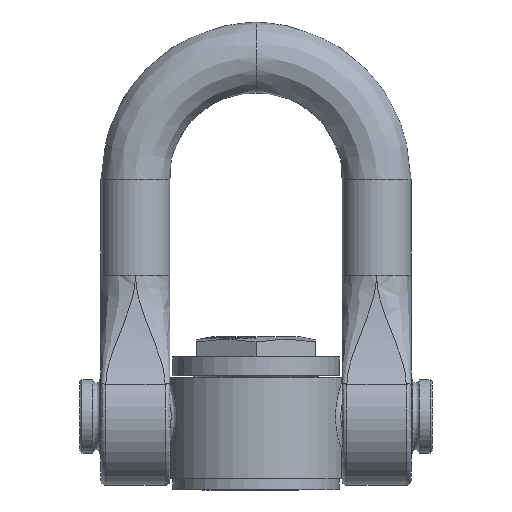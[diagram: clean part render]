
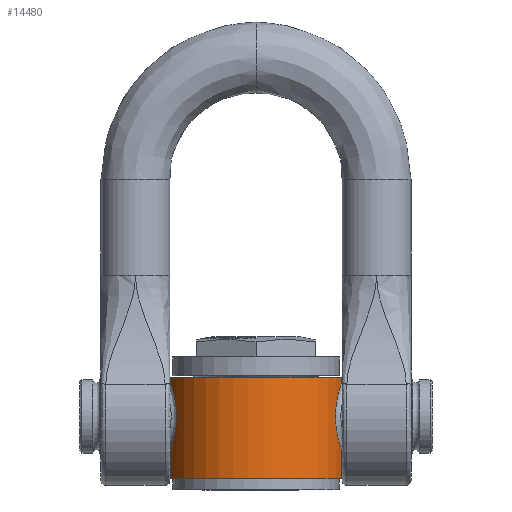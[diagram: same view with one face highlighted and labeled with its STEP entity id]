
A CAD part, left-side view. The second image highlights one B-rep face of the part: STEP entity #14480.
In plain terms, the highlighted cylindrical face has radius 37.5 mm (diameter 75 mm), a partial arc.
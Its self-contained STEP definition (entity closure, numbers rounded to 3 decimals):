
#960=LINE('',#26594,#1731);
#964=LINE('',#26960,#1735);
#966=LINE('',#26964,#1737);
#967=LINE('',#26966,#1738);
#1731=VECTOR('',#17507,10.);
#1735=VECTOR('',#17593,10.);
#1737=VECTOR('',#17599,10.);
#1738=VECTOR('',#17602,10.);
#2195=ELLIPSE('',#15468,17.07,15.009);
#2196=ELLIPSE('',#15469,17.07,15.009);
#2199=ELLIPSE('',#15472,17.07,15.009);
#2200=ELLIPSE('',#15473,17.07,15.009);
#2259=CYLINDRICAL_SURFACE('',#15493,37.5);
#2678=FACE_OUTER_BOUND('',#3549,.T.);
#3549=EDGE_LOOP('',(#11430,#11431,#11432,#11433,#11434,#11435,#11436,#11437,
#11438,#11439,#11440,#11441,#11442,#11443,#11444,#11445));
#4202=CIRCLE('',#15482,37.5);
#4206=CIRCLE('',#15488,37.5);
#5047=B_SPLINE_CURVE_WITH_KNOTS('',3,(#26421,#26422,#26423,#26424,#26425,
#26426,#26427,#26428),.UNSPECIFIED.,.F.,.F.,(4,2,2,4),(1.872,
1.928,1.992,1.994),.UNSPECIFIED.);
#5052=B_SPLINE_CURVE_WITH_KNOTS('',3,(#26488,#26489,#26490,#26491,#26492,
#26493,#26494,#26495),.UNSPECIFIED.,.F.,.F.,(4,2,2,4),(1.268,
1.288,1.331,1.348),.UNSPECIFIED.);
#5062=B_SPLINE_CURVE_WITH_KNOTS('',3,(#26583,#26584,#26585,#26586,#26587,
#26588),.UNSPECIFIED.,.F.,.F.,(4,2,4),(1.948,2.012,
2.057),.UNSPECIFIED.);
#5063=B_SPLINE_CURVE_WITH_KNOTS('',3,(#26598,#26599,#26600,#26601,#26602,
#26603,#26604,#26605),.UNSPECIFIED.,.F.,.F.,(4,2,2,4),(1.268,
1.288,1.331,1.348),.UNSPECIFIED.);
#5073=B_SPLINE_CURVE_WITH_KNOTS('',3,(#26751,#26752,#26753,#26754,#26755,
#26756,#26757,#26758,#26759),.UNSPECIFIED.,.F.,.F.,(4,1,1,1,1,1,4),(-13.112,
-12.433,-12.192,-11.709,-11.226,
-10.743,-9.823),.UNSPECIFIED.);
#5075=B_SPLINE_CURVE_WITH_KNOTS('',3,(#26867,#26868,#26869,#26870,#26871,
#26872,#26873,#26874,#26875),.UNSPECIFIED.,.F.,.F.,(4,1,1,1,1,1,4),(-13.112,
-12.433,-12.192,-11.709,-11.226,
-10.743,-9.823),.UNSPECIFIED.);
#6112=VERTEX_POINT('',#26364);
#6118=VERTEX_POINT('',#26419);
#6126=VERTEX_POINT('',#26474);
#6127=VERTEX_POINT('',#26487);
#6136=VERTEX_POINT('',#26546);
#6139=VERTEX_POINT('',#26581);
#6141=VERTEX_POINT('',#26592);
#6142=VERTEX_POINT('',#26596);
#6143=VERTEX_POINT('',#26597);
#6159=VERTEX_POINT('',#26748);
#6160=VERTEX_POINT('',#26750);
#6163=VERTEX_POINT('',#26864);
#6164=VERTEX_POINT('',#26866);
#6170=VERTEX_POINT('',#26944);
#6171=VERTEX_POINT('',#26946);
#6174=VERTEX_POINT('',#26956);
#7988=EDGE_CURVE('',#6118,#6112,#5047,.T.);
#7997=EDGE_CURVE('',#6127,#6126,#5052,.F.);
#8013=EDGE_CURVE('',#6139,#6136,#5062,.T.);
#8016=EDGE_CURVE('',#6139,#6141,#960,.T.);
#8017=EDGE_CURVE('',#6142,#6143,#5063,.F.);
#8036=EDGE_CURVE('',#6136,#6159,#2195,.F.);
#8037=EDGE_CURVE('',#6159,#6160,#5073,.T.);
#8038=EDGE_CURVE('',#6126,#6160,#2196,.T.);
#8042=EDGE_CURVE('',#6112,#6163,#2199,.F.);
#8043=EDGE_CURVE('',#6163,#6164,#5075,.T.);
#8044=EDGE_CURVE('',#6143,#6164,#2200,.T.);
#8052=EDGE_CURVE('',#6170,#6171,#4202,.T.);
#8058=EDGE_CURVE('',#6174,#6141,#4206,.T.);
#8059=EDGE_CURVE('',#6170,#6127,#964,.T.);
#8061=EDGE_CURVE('',#6174,#6142,#966,.T.);
#8062=EDGE_CURVE('',#6118,#6171,#967,.T.);
#11430=ORIENTED_EDGE('',*,*,#8037,.F.);
#11431=ORIENTED_EDGE('',*,*,#8036,.F.);
#11432=ORIENTED_EDGE('',*,*,#8013,.F.);
#11433=ORIENTED_EDGE('',*,*,#8016,.T.);
#11434=ORIENTED_EDGE('',*,*,#8058,.F.);
#11435=ORIENTED_EDGE('',*,*,#8061,.T.);
#11436=ORIENTED_EDGE('',*,*,#8017,.T.);
#11437=ORIENTED_EDGE('',*,*,#8044,.T.);
#11438=ORIENTED_EDGE('',*,*,#8043,.F.);
#11439=ORIENTED_EDGE('',*,*,#8042,.F.);
#11440=ORIENTED_EDGE('',*,*,#7988,.F.);
#11441=ORIENTED_EDGE('',*,*,#8062,.T.);
#11442=ORIENTED_EDGE('',*,*,#8052,.F.);
#11443=ORIENTED_EDGE('',*,*,#8059,.T.);
#11444=ORIENTED_EDGE('',*,*,#7997,.T.);
#11445=ORIENTED_EDGE('',*,*,#8038,.T.);
#14480=ADVANCED_FACE('',(#2678),#2259,.T.);
#15468=AXIS2_PLACEMENT_3D('',#26749,#17546,#17547);
#15469=AXIS2_PLACEMENT_3D('',#26760,#17548,#17549);
#15472=AXIS2_PLACEMENT_3D('',#26865,#17554,#17555);
#15473=AXIS2_PLACEMENT_3D('',#26876,#17556,#17557);
#15482=AXIS2_PLACEMENT_3D('',#26947,#17575,#17576);
#15488=AXIS2_PLACEMENT_3D('',#26958,#17589,#17590);
#15493=AXIS2_PLACEMENT_3D('',#26967,#17603,#17604);
#17507=DIRECTION('',(0.,0.,-1.));
#17546=DIRECTION('center_axis',(0.093,-0.97,-0.224));
#17547=DIRECTION('ref_axis',(0.374,0.243,-0.895));
#17548=DIRECTION('center_axis',(0.093,-0.97,0.224));
#17549=DIRECTION('ref_axis',(-0.374,-0.243,-0.895));
#17554=DIRECTION('center_axis',(0.093,0.97,0.224));
#17555=DIRECTION('ref_axis',(0.374,-0.243,0.895));
#17556=DIRECTION('center_axis',(0.093,0.97,-0.224));
#17557=DIRECTION('ref_axis',(-0.374,0.243,0.895));
#17575=DIRECTION('center_axis',(0.,0.,1.));
#17576=DIRECTION('ref_axis',(-1.,0.,0.));
#17589=DIRECTION('center_axis',(0.,0.,-1.));
#17590=DIRECTION('ref_axis',(-1.,0.,0.));
#17593=DIRECTION('',(0.,0.,-1.));
#17599=DIRECTION('',(0.,0.,1.));
#17602=DIRECTION('',(0.,0.,1.));
#17603=DIRECTION('center_axis',(0.,0.,1.));
#17604=DIRECTION('ref_axis',(-1.,0.,0.));
#26364=CARTESIAN_POINT('',(-10.379,-36.035,40.193));
#26419=CARTESIAN_POINT('',(-10.5,-36.,40.62));
#26421=CARTESIAN_POINT('Ctrl Pts',(-10.5,-36.,40.62));
#26422=CARTESIAN_POINT('Ctrl Pts',(-10.5,-36.,40.549));
#26423=CARTESIAN_POINT('Ctrl Pts',(-10.493,-36.002,
40.479));
#26424=CARTESIAN_POINT('Ctrl Pts',(-10.458,-36.012,
40.333));
#26425=CARTESIAN_POINT('Ctrl Pts',(-10.428,-36.021,40.261));
#26426=CARTESIAN_POINT('Ctrl Pts',(-10.381,-36.034,
40.195));
#26427=CARTESIAN_POINT('Ctrl Pts',(-10.38,-36.035,
40.194));
#26428=CARTESIAN_POINT('Ctrl Pts',(-10.379,-36.035,
40.193));
#26474=CARTESIAN_POINT('',(-10.379,36.035,40.193));
#26487=CARTESIAN_POINT('',(-10.5,36.,40.62));
#26488=CARTESIAN_POINT('Ctrl Pts',(-10.379,36.035,40.193));
#26489=CARTESIAN_POINT('Ctrl Pts',(-10.401,36.029,40.223));
#26490=CARTESIAN_POINT('Ctrl Pts',(-10.42,36.023,40.255));
#26491=CARTESIAN_POINT('Ctrl Pts',(-10.469,36.009,40.363));
#26492=CARTESIAN_POINT('Ctrl Pts',(-10.488,36.004,40.443));
#26493=CARTESIAN_POINT('Ctrl Pts',(-10.499,36.,40.556));
#26494=CARTESIAN_POINT('Ctrl Pts',(-10.5,36.,40.588));
#26495=CARTESIAN_POINT('Ctrl Pts',(-10.5,36.,40.62));
#26546=CARTESIAN_POINT('',(-10.379,36.035,11.807));
#26581=CARTESIAN_POINT('',(-10.5,36.,11.38));
#26583=CARTESIAN_POINT('Ctrl Pts',(-10.5,36.,11.38));
#26584=CARTESIAN_POINT('Ctrl Pts',(-10.5,36.,11.469));
#26585=CARTESIAN_POINT('Ctrl Pts',(-10.489,36.003,11.558));
#26586=CARTESIAN_POINT('Ctrl Pts',(-10.443,36.017,11.702));
#26587=CARTESIAN_POINT('Ctrl Pts',(-10.415,36.025,11.757));
#26588=CARTESIAN_POINT('Ctrl Pts',(-10.379,36.035,11.807));
#26592=CARTESIAN_POINT('',(-10.5,36.,0.));
#26594=CARTESIAN_POINT('',(-10.5,36.,0.));
#26596=CARTESIAN_POINT('',(-10.5,-36.,11.38));
#26597=CARTESIAN_POINT('',(-10.379,-36.035,11.807));
#26598=CARTESIAN_POINT('Ctrl Pts',(-10.379,-36.035,
11.807));
#26599=CARTESIAN_POINT('Ctrl Pts',(-10.401,-36.029,
11.777));
#26600=CARTESIAN_POINT('Ctrl Pts',(-10.42,-36.023,11.745));
#26601=CARTESIAN_POINT('Ctrl Pts',(-10.469,-36.009,
11.637));
#26602=CARTESIAN_POINT('Ctrl Pts',(-10.488,-36.004,
11.557));
#26603=CARTESIAN_POINT('Ctrl Pts',(-10.499,-36.,
11.444));
#26604=CARTESIAN_POINT('Ctrl Pts',(-10.5,-36.,11.412));
#26605=CARTESIAN_POINT('Ctrl Pts',(-10.5,-36.,11.38));
#26748=CARTESIAN_POINT('',(-10.5,36.,11.909));
#26749=CARTESIAN_POINT('Origin',(-1.565,33.962,24.447));
#26750=CARTESIAN_POINT('',(-10.5,36.,40.091));
#26751=CARTESIAN_POINT('Ctrl Pts',(-10.5,36.,11.909));
#26752=CARTESIAN_POINT('Ctrl Pts',(-12.119,35.527,13.282));
#26753=CARTESIAN_POINT('Ctrl Pts',(-13.982,34.822,15.566));
#26754=CARTESIAN_POINT('Ctrl Pts',(-15.92,33.964,19.672));
#26755=CARTESIAN_POINT('Ctrl Pts',(-16.924,33.465,23.558));
#26756=CARTESIAN_POINT('Ctrl Pts',(-16.925,33.463,28.443));
#26757=CARTESIAN_POINT('Ctrl Pts',(-15.354,34.246,34.515));
#26758=CARTESIAN_POINT('Ctrl Pts',(-12.695,35.359,38.229));
#26759=CARTESIAN_POINT('Ctrl Pts',(-10.5,36.,40.091));
#26760=CARTESIAN_POINT('Origin',(-1.564,33.962,27.553));
#26864=CARTESIAN_POINT('',(-10.5,-36.,40.091));
#26865=CARTESIAN_POINT('Origin',(-1.565,-33.962,27.553));
#26866=CARTESIAN_POINT('',(-10.5,-36.,11.909));
#26867=CARTESIAN_POINT('Ctrl Pts',(-10.5,-36.,
40.091));
#26868=CARTESIAN_POINT('Ctrl Pts',(-12.119,-35.527,
38.718));
#26869=CARTESIAN_POINT('Ctrl Pts',(-13.982,-34.822,
36.434));
#26870=CARTESIAN_POINT('Ctrl Pts',(-15.92,-33.964,
32.328));
#26871=CARTESIAN_POINT('Ctrl Pts',(-16.924,-33.465,
28.442));
#26872=CARTESIAN_POINT('Ctrl Pts',(-16.925,-33.463,23.557));
#26873=CARTESIAN_POINT('Ctrl Pts',(-15.354,-34.246,
17.485));
#26874=CARTESIAN_POINT('Ctrl Pts',(-12.695,-35.359,
13.771));
#26875=CARTESIAN_POINT('Ctrl Pts',(-10.5,-36.,
11.909));
#26876=CARTESIAN_POINT('Origin',(-1.565,-33.962,24.447));
#26944=CARTESIAN_POINT('',(-10.5,36.,42.5));
#26946=CARTESIAN_POINT('',(-10.5,-36.,42.5));
#26947=CARTESIAN_POINT('Origin',(0.,0.,42.5));
#26956=CARTESIAN_POINT('',(-10.5,-36.,0.));
#26958=CARTESIAN_POINT('Origin',(0.,0.,0.));
#26960=CARTESIAN_POINT('',(-10.5,36.,0.));
#26964=CARTESIAN_POINT('',(-10.5,-36.,0.));
#26966=CARTESIAN_POINT('',(-10.5,-36.,0.));
#26967=CARTESIAN_POINT('Origin',(0.,0.,0.));
